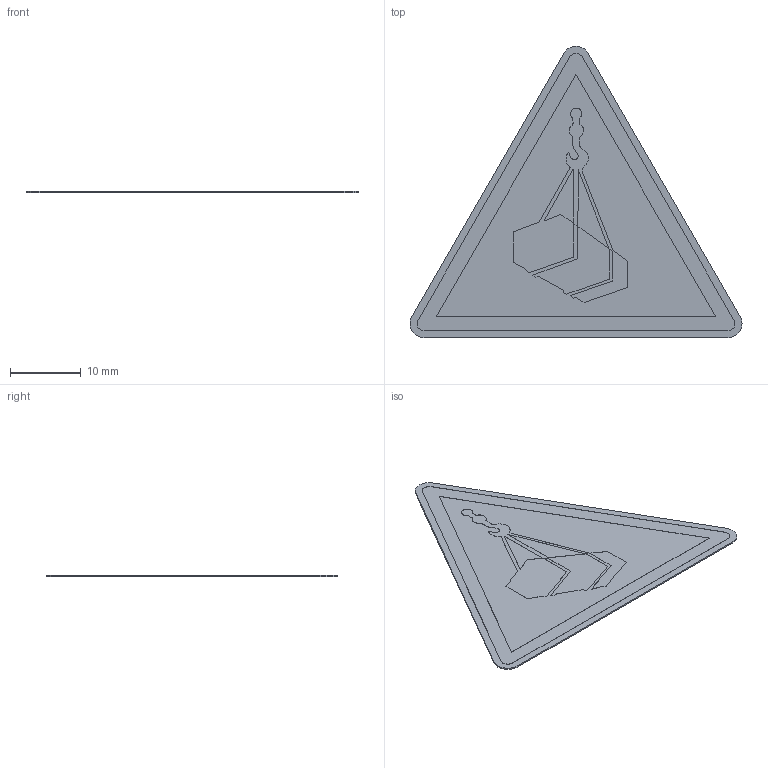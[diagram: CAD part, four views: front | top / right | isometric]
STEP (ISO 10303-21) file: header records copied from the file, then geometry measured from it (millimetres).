
FILE_DESCRIPTION (( 'STEP AP214' ), '1' );
FILE_NAME ('W015_Warnung vor schwebender Last.STEP', '2022-02-22T08:16:09', ( '' ), ( '' ), 'SwSTEP 2.0', 'SolidWorks 2021', '' );
FILE_SCHEMA (( 'AUTOMOTIVE_DESIGN' ));
Length unit declared in the file: millimetre
Products named in the file (1): W015_Warnung vor schwebender Last
Bounding box: 47.07 x 41.3 x 0.22 mm (x, y, z)
Volume: 221.5 mm3; surface area: 2187.7 mm2
Topology: 1 solids, 1 shells, 62 faces, 165 edges, 110 vertices
Faces by surface type: plane 53, cylinder 8, bspline 1
Entity records: 2743 total; most frequent: CARTESIAN_POINT 599, ORIENTED_EDGE 330, DIRECTION 303, EDGE_CURVE 165, VECTOR 147, LINE 147, VERTEX_POINT 110, AXIS2_PLACEMENT_3D 78
